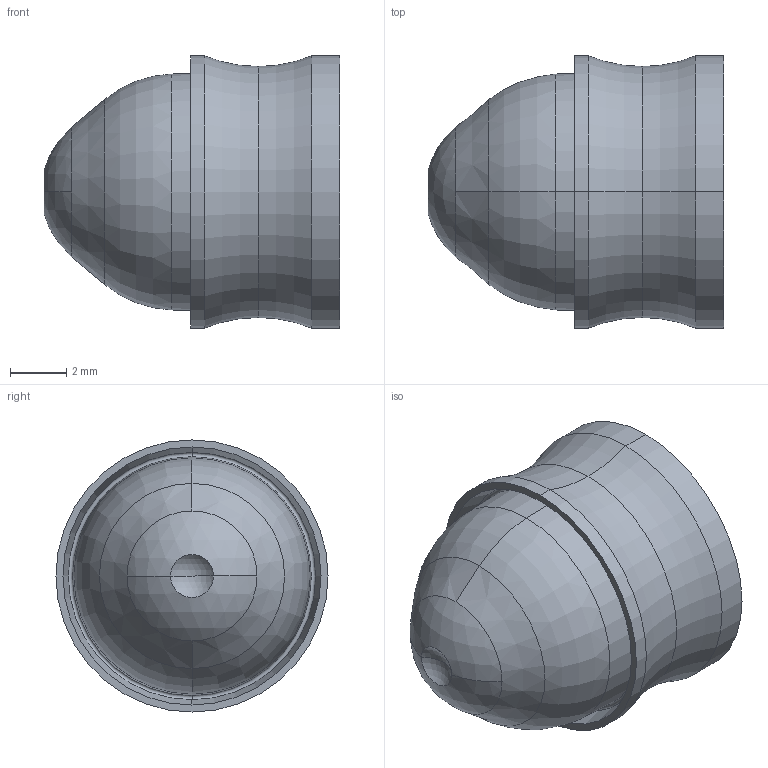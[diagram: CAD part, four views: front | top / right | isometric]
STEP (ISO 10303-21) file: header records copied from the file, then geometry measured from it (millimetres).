
FILE_DESCRIPTION (( 'STEP AP214' ), '1' );
FILE_NAME ('8001006.STEP', '2022-05-24T16:07:06', ( '' ), ( '' ), 'SwSTEP 2.0', 'SolidWorks 2020', '' );
FILE_SCHEMA (( 'AUTOMOTIVE_DESIGN' ));
Length unit declared in the file: millimetre
Products named in the file (1): 8001006
Bounding box: 10.5 x 9.66 x 9.66 mm (x, y, z)
Volume: 194.8 mm3; surface area: 644.2 mm2
Topology: 1 solids, 1 shells, 56 faces, 132 edges, 81 vertices
Faces by surface type: plane 16, torus 14, cone 12, cylinder 10, sphere 4
Entity records: 1692 total; most frequent: CARTESIAN_POINT 356, DIRECTION 292, ORIENTED_EDGE 264, EDGE_CURVE 132, AXIS2_PLACEMENT_3D 125, VERTEX_POINT 81, CIRCLE 68, EDGE_LOOP 59
